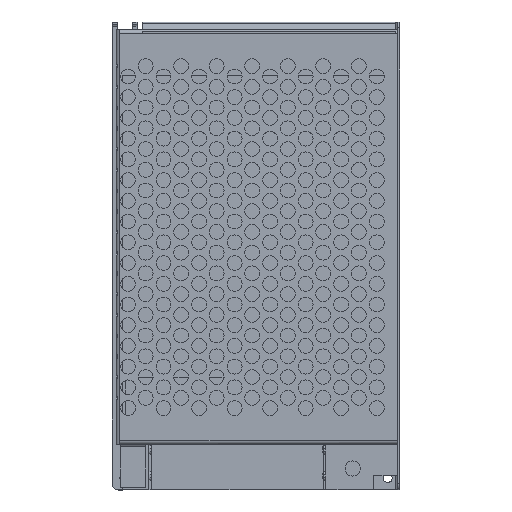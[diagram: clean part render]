
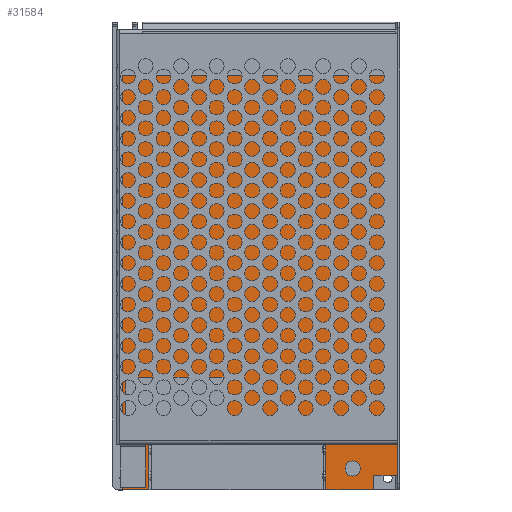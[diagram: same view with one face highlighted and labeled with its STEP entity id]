
A CAD part, top view. The second image highlights one B-rep face of the part: STEP entity #31584.
In plain terms, the highlighted planar face has unit normal (0, 0, 1).
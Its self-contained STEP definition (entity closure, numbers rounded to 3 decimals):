
#128 = DIRECTION ( 'NONE',  ( 0., 1., 0. ) ) ;
#558 = EDGE_CURVE ( 'NONE', #8371, #35377, #9931, .T. ) ;
#606 = CARTESIAN_POINT ( 'NONE',  ( -19.64, -35.429, 101.964 ) ) ;
#801 = CARTESIAN_POINT ( 'NONE',  ( -103.64, -35.429, 101.964 ) ) ;
#915 = EDGE_CURVE ( 'NONE', #3435, #23422, #24806, .T. ) ;
#1546 = DIRECTION ( 'NONE',  ( 0., -1., 0. ) ) ;
#1667 = LINE ( 'NONE', #39300, #22528 ) ;
#1745 = CARTESIAN_POINT ( 'NONE',  ( -112.64, 104.571, 101.964 ) ) ;
#2056 = VECTOR ( 'NONE', #27370, 1000. ) ;
#2350 = ORIENTED_EDGE ( 'NONE', *, *, #915, .T. ) ;
#2490 = ORIENTED_EDGE ( 'NONE', *, *, #25759, .T. ) ;
#2723 = VERTEX_POINT ( 'NONE', #14367 ) ;
#3161 = ORIENTED_EDGE ( 'NONE', *, *, #18011, .T. ) ;
#3435 = VERTEX_POINT ( 'NONE', #17612 ) ;
#3632 = ORIENTED_EDGE ( 'NONE', *, *, #558, .T. ) ;
#3681 = CARTESIAN_POINT ( 'NONE',  ( -43.84, -35.429, 101.964 ) ) ;
#3848 = DIRECTION ( 'NONE',  ( 1., 0., 0. ) ) ;
#4351 = LINE ( 'NONE', #19423, #23337 ) ;
#4778 = LINE ( 'NONE', #20071, #36216 ) ;
#6027 = CARTESIAN_POINT ( 'NONE',  ( -27.64, -30.429, 101.964 ) ) ;
#6235 = LINE ( 'NONE', #6027, #36741 ) ;
#6726 = CARTESIAN_POINT ( 'NONE',  ( -43.84, -35.429, 101.964 ) ) ;
#6910 = EDGE_CURVE ( 'NONE', #22652, #31619, #1667, .T. ) ;
#6990 = CIRCLE ( 'NONE', #23920, 2.551 ) ;
#7352 = VECTOR ( 'NONE', #21793, 1000. ) ;
#8002 = ORIENTED_EDGE ( 'NONE', *, *, #12631, .T. ) ;
#8371 = VERTEX_POINT ( 'NONE', #3681 ) ;
#8941 = VERTEX_POINT ( 'NONE', #20510 ) ;
#9344 = CARTESIAN_POINT ( 'NONE',  ( -27.64, -35.429, 101.964 ) ) ;
#9931 = LINE ( 'NONE', #9344, #27916 ) ;
#10562 = LINE ( 'NONE', #6726, #30750 ) ;
#10683 = VERTEX_POINT ( 'NONE', #1745 ) ;
#10768 = FACE_BOUND ( 'NONE', #25298, .T. ) ;
#11228 = EDGE_CURVE ( 'NONE', #20084, #13999, #23339, .T. ) ;
#11687 = CARTESIAN_POINT ( 'NONE',  ( -27.64, -30.429, 101.964 ) ) ;
#12194 = CARTESIAN_POINT ( 'NONE',  ( -103.64, -20.429, 101.964 ) ) ;
#12308 = CARTESIAN_POINT ( 'NONE',  ( -34.788, -28.193, 101.964 ) ) ;
#12631 = EDGE_CURVE ( 'NONE', #23422, #10683, #4351, .T. ) ;
#12912 = ORIENTED_EDGE ( 'NONE', *, *, #6910, .F. ) ;
#13025 = DIRECTION ( 'NONE',  ( 0., -1., 0. ) ) ;
#13422 = DIRECTION ( 'NONE',  ( 0., 0., 1. ) ) ;
#13565 = CARTESIAN_POINT ( 'NONE',  ( -34.788, -30.744, 101.964 ) ) ;
#13999 = VERTEX_POINT ( 'NONE', #13565 ) ;
#14367 = CARTESIAN_POINT ( 'NONE',  ( -112.64, -35.429, 101.964 ) ) ;
#15149 = DIRECTION ( 'NONE',  ( 0., 0., 1. ) ) ;
#15554 = EDGE_CURVE ( 'NONE', #10683, #2723, #17940, .T. ) ;
#16361 = DIRECTION ( 'NONE',  ( -1., 0., 0. ) ) ;
#16897 = FACE_OUTER_BOUND ( 'NONE', #24064, .T. ) ;
#17612 = CARTESIAN_POINT ( 'NONE',  ( -19.64, -30.429, 101.964 ) ) ;
#17940 = LINE ( 'NONE', #30355, #7352 ) ;
#18011 = EDGE_CURVE ( 'NONE', #8941, #8371, #10562, .T. ) ;
#18441 = DIRECTION ( 'NONE',  ( 0., 1., 0. ) ) ;
#19244 = CARTESIAN_POINT ( 'NONE',  ( -34.788, -25.642, 101.964 ) ) ;
#19423 = CARTESIAN_POINT ( 'NONE',  ( -19.64, 104.571, 101.964 ) ) ;
#20071 = CARTESIAN_POINT ( 'NONE',  ( -19.64, -20.429, 101.964 ) ) ;
#20084 = VERTEX_POINT ( 'NONE', #19244 ) ;
#20510 = CARTESIAN_POINT ( 'NONE',  ( -43.84, -20.429, 101.964 ) ) ;
#21003 = ORIENTED_EDGE ( 'NONE', *, *, #15554, .T. ) ;
#21666 = CARTESIAN_POINT ( 'NONE',  ( -19.64, -30.429, 101.964 ) ) ;
#21675 = DIRECTION ( 'NONE',  ( 0., -1., 0. ) ) ;
#21793 = DIRECTION ( 'NONE',  ( 0., -1., 0. ) ) ;
#21850 = EDGE_CURVE ( 'NONE', #2723, #31619, #28540, .T. ) ;
#22528 = VECTOR ( 'NONE', #29567, 1000. ) ;
#22652 = VERTEX_POINT ( 'NONE', #12194 ) ;
#22915 = CARTESIAN_POINT ( 'NONE',  ( -19.64, 104.571, 101.964 ) ) ;
#23014 = DIRECTION ( 'NONE',  ( 0., -1., 0. ) ) ;
#23337 = VECTOR ( 'NONE', #16361, 1000. ) ;
#23339 = CIRCLE ( 'NONE', #24623, 2.551 ) ;
#23402 = AXIS2_PLACEMENT_3D ( 'NONE', #606, #13422, #13025 ) ;
#23422 = VERTEX_POINT ( 'NONE', #22915 ) ;
#23785 = ORIENTED_EDGE ( 'NONE', *, *, #11228, .F. ) ;
#23920 = AXIS2_PLACEMENT_3D ( 'NONE', #26209, #38580, #1546 ) ;
#24064 = EDGE_LOOP ( 'NONE', ( #2490, #3161, #3632, #30076, #37079, #2350, #8002, #21003, #29444, #12912 ) ) ;
#24623 = AXIS2_PLACEMENT_3D ( 'NONE', #12308, #15149, #21675 ) ;
#24806 = LINE ( 'NONE', #25201, #29210 ) ;
#25201 = CARTESIAN_POINT ( 'NONE',  ( -19.64, -30.429, 101.964 ) ) ;
#25298 = EDGE_LOOP ( 'NONE', ( #23785, #27214 ) ) ;
#25759 = EDGE_CURVE ( 'NONE', #22652, #8941, #4778, .T. ) ;
#26079 = CARTESIAN_POINT ( 'NONE',  ( -27.64, -35.429, 101.964 ) ) ;
#26209 = CARTESIAN_POINT ( 'NONE',  ( -34.788, -28.193, 101.964 ) ) ;
#27214 = ORIENTED_EDGE ( 'NONE', *, *, #29949, .F. ) ;
#27370 = DIRECTION ( 'NONE',  ( 1., 0., 0. ) ) ;
#27916 = VECTOR ( 'NONE', #3848, 1000. ) ;
#28540 = LINE ( 'NONE', #35425, #37095 ) ;
#28736 = DIRECTION ( 'NONE',  ( 1., 0., 0. ) ) ;
#29210 = VECTOR ( 'NONE', #128, 1000. ) ;
#29444 = ORIENTED_EDGE ( 'NONE', *, *, #21850, .T. ) ;
#29567 = DIRECTION ( 'NONE',  ( 0., -1., 0. ) ) ;
#29949 = EDGE_CURVE ( 'NONE', #13999, #20084, #6990, .T. ) ;
#30076 = ORIENTED_EDGE ( 'NONE', *, *, #39240, .T. ) ;
#30355 = CARTESIAN_POINT ( 'NONE',  ( -112.64, -35.429, 101.964 ) ) ;
#30750 = VECTOR ( 'NONE', #23014, 1000. ) ;
#31221 = LINE ( 'NONE', #21666, #2056 ) ;
#31535 = PLANE ( 'NONE',  #23402 ) ;
#31584 = ADVANCED_FACE ( 'NONE', ( #10768, #16897 ), #31535, .T. ) ;
#31619 = VERTEX_POINT ( 'NONE', #801 ) ;
#32685 = VERTEX_POINT ( 'NONE', #11687 ) ;
#32864 = DIRECTION ( 'NONE',  ( 1., 0., 0. ) ) ;
#33932 = EDGE_CURVE ( 'NONE', #32685, #3435, #31221, .T. ) ;
#35377 = VERTEX_POINT ( 'NONE', #26079 ) ;
#35425 = CARTESIAN_POINT ( 'NONE',  ( -27.64, -35.429, 101.964 ) ) ;
#36216 = VECTOR ( 'NONE', #32864, 1000. ) ;
#36741 = VECTOR ( 'NONE', #18441, 1000. ) ;
#37079 = ORIENTED_EDGE ( 'NONE', *, *, #33932, .T. ) ;
#37095 = VECTOR ( 'NONE', #28736, 1000. ) ;
#38580 = DIRECTION ( 'NONE',  ( 0., 0., 1. ) ) ;
#39240 = EDGE_CURVE ( 'NONE', #35377, #32685, #6235, .T. ) ;
#39300 = CARTESIAN_POINT ( 'NONE',  ( -103.64, -35.429, 101.964 ) ) ;
